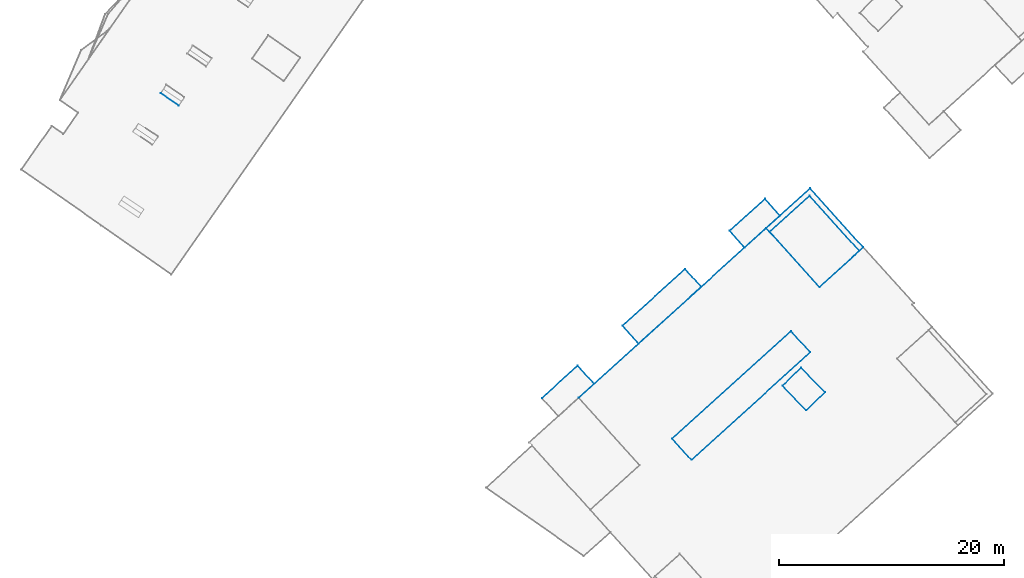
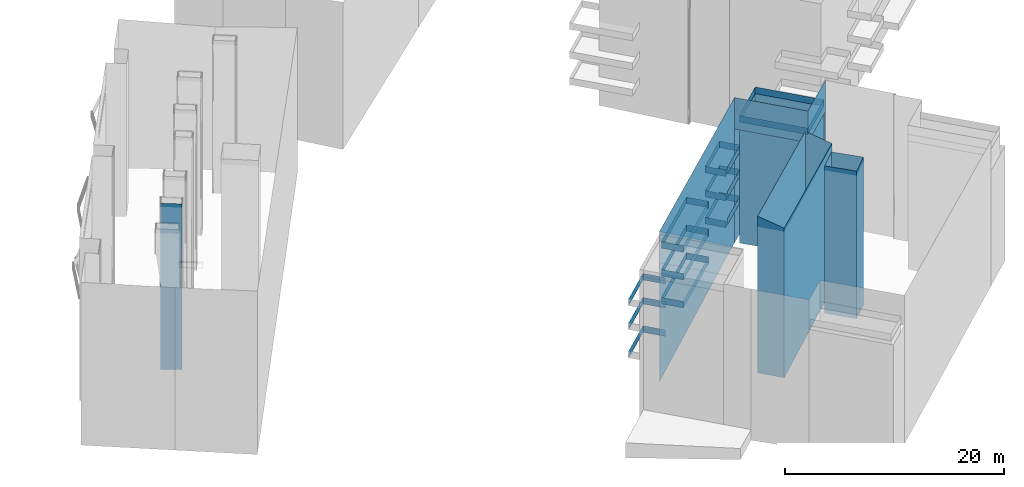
# Not in any storey, part 7 of 136: 86 walls.
"""IFC4 building model written with IfcOpenShell, lengths in metres."""

from ifc_helpers import new_model, entity, si_unit, converted_unit, origin, place, context, subcontext, project, spatial, face_set, surface_model, element, save


model = new_model("IFC4")

# Units and contexts
model_context = context("Model", 3, precision=1e-05, world=origin())
body_context = subcontext(model_context, "Body", "Model", "MODEL_VIEW")
ifc_project = project(units=[converted_unit("PLANEANGLEUNIT", "DEGREE", entity("IfcRatioMeasure", 0.0174532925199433), si_unit("PLANEANGLEUNIT", "RADIAN"), dimensions=[0, 0, 0, 0, 0, 0, 0]), si_unit("AREAUNIT", "SQUARE_METRE"), si_unit("LENGTHUNIT", "METRE")], contexts=[model_context])

# Site, building
site_placement = place(None, origin())
site = spatial("IfcSite", under=ifc_project, at=site_placement, Name="_site")
building_1_placement = place(site_placement, origin())
building_1 = spatial("IfcBuilding", under=site, at=building_1_placement, Name="_building")

# Wall
wall_1_placement = place(building_1_placement, origin())
element("IfcWall", 1, at=wall_1_placement, inside=building_1, Name="Wall", PredefinedType="NOTDEFINED", context=body_context, shape_type="SurfaceModel", body=[
    surface_model("IfcFaceBasedSurfaceModel", [(10.42, 26.021, 54.34), (8.8, 27.11, 54.34), (8.8, 27.11, 35.735), (10.42, 26.021, 35.867)], [face_set([[[0, 1, 2, 3]]])]),
])

# Building
building_2_placement = place(site_placement, origin())
building_2 = spatial("IfcBuilding", under=site, at=building_2_placement, Name="_building")

# Walls
wall_2_placement = place(building_2_placement, origin())
element("IfcWall", 2, at=wall_2_placement, inside=building_2, Name="Wall", PredefinedType="NOTDEFINED", context=body_context, shape_type="SurfaceModel", body=[
    surface_model("IfcFaceBasedSurfaceModel", [(55.9, -5.41, 54.77), (54.19, -3.52, 55.57), (54.19, -3.52, 38.058), (55.9, -5.41, 38.055)], [face_set([[[0, 1, 2, 3]]])]),
])
wall_3_placement = place(building_2_placement, origin())
element("IfcWall", 3, at=wall_3_placement, inside=building_2, Name="Wall", PredefinedType="NOTDEFINED", context=body_context, shape_type="SurfaceModel", body=[
    surface_model("IfcFaceBasedSurfaceModel", [(63.97, 1.16, 54.92), (65.62, 2.771, 54.92), (65.62, 2.771, 38.478), (63.97, 1.16, 38.459)], [face_set([[[0, 1, 2, 3]]])]),
])
wall_4_placement = place(building_2_placement, origin())
element("IfcWall", 4, at=wall_4_placement, inside=building_2, Name="Wall", PredefinedType="NOTDEFINED", context=body_context, shape_type="SurfaceModel", body=[
    surface_model("IfcFaceBasedSurfaceModel", [(45.81, 2.95, 44.76), (47.27, 1.34, 44.76), (47.27, 1.34, 45.51), (45.81, 2.95, 45.51)], [face_set([[[0, 1, 2, 3]]])]),
])
wall_5_placement = place(building_2_placement, origin())
element("IfcWall", 5, at=wall_5_placement, inside=building_2, Name="Wall", PredefinedType="NOTDEFINED", context=body_context, shape_type="SurfaceModel", body=[
    surface_model("IfcFaceBasedSurfaceModel", [(42.64, 0.08, 44.76), (45.81, 2.95, 44.76), (45.81, 2.95, 45.51), (42.64, 0.08, 45.51)], [face_set([[[0, 1, 2, 3]]])]),
])
wall_6_placement = place(building_2_placement, origin())
element("IfcWall", 6, at=wall_6_placement, inside=building_2, Name="Wall", PredefinedType="NOTDEFINED", context=body_context, shape_type="SurfaceModel", body=[
    surface_model("IfcFaceBasedSurfaceModel", [(45.81, 2.95, 44.76), (47.27, 1.34, 44.76), (47.27, 1.34, 45.51), (45.81, 2.95, 45.51)], [face_set([[[0, 1, 2, 3]]])]),
])
wall_7_placement = place(building_2_placement, origin())
element("IfcWall", 7, at=wall_7_placement, inside=building_2, Name="Wall", PredefinedType="NOTDEFINED", context=body_context, shape_type="SurfaceModel", body=[
    surface_model("IfcFaceBasedSurfaceModel", [(42.64, 0.08, 44.76), (45.81, 2.95, 44.76), (45.81, 2.95, 45.51), (42.64, 0.08, 45.51)], [face_set([[[0, 1, 2, 3]]])]),
])
wall_8_placement = place(building_2_placement, origin())
element("IfcWall", 8, at=wall_8_placement, inside=building_2, Name="Wall", PredefinedType="NOTDEFINED", context=body_context, shape_type="SurfaceModel", body=[
    surface_model("IfcFaceBasedSurfaceModel", [(66.37, 18.021, 51.92), (70.79, 13.13, 51.92), (70.79, 13.13, 38.485), (66.37, 18.021, 38.212)], [face_set([[[0, 1, 2, 3]]])]),
])
wall_9_placement = place(building_2_placement, origin())
element("IfcWall", 9, at=wall_9_placement, inside=building_2, Name="Wall", PredefinedType="NOTDEFINED", context=body_context, shape_type="SurfaceModel", body=[
    surface_model("IfcFaceBasedSurfaceModel", [(62.84, 14.82, 51.92), (66.37, 18.021, 51.92), (66.37, 18.021, 38.212), (62.84, 14.82, 38.41)], [face_set([[[0, 1, 2, 3]]])]),
])
wall_10_placement = place(building_2_placement, origin())
element("IfcWall", 10, at=wall_10_placement, inside=building_2, Name="Wall", PredefinedType="NOTDEFINED", context=body_context, shape_type="SurfaceModel", body=[
    surface_model("IfcFaceBasedSurfaceModel", [(66.09, -1.02, 54.92), (63.97, 1.16, 54.92), (63.97, 1.16, 38.459), (66.09, -1.02, 38.412)], [face_set([[[0, 1, 2, 3]]])]),
])
wall_11_placement = place(building_2_placement, origin())
element("IfcWall", 11, at=wall_11_placement, inside=building_2, Name="Wall", PredefinedType="NOTDEFINED", context=body_context, shape_type="SurfaceModel", body=[
    surface_model("IfcFaceBasedSurfaceModel", [(67.74, 0.601, 54.92), (66.09, -1.02, 54.92), (66.09, -1.02, 38.412), (67.74, 0.601, 38.407)], [face_set([[[0, 1, 2, 3]]])]),
])
wall_12_placement = place(building_2_placement, origin())
element("IfcWall", 12, at=wall_12_placement, inside=building_2, Name="Wall", PredefinedType="NOTDEFINED", context=body_context, shape_type="SurfaceModel", body=[
    surface_model("IfcFaceBasedSurfaceModel", [(65.62, 2.771, 54.92), (67.74, 0.601, 54.92), (67.74, 0.601, 38.407), (65.62, 2.771, 38.478)], [face_set([[[0, 1, 2, 3]]])]),
])
wall_13_placement = place(building_2_placement, origin())
element("IfcWall", 13, at=wall_13_placement, inside=building_2, Name="Wall", PredefinedType="NOTDEFINED", context=body_context, shape_type="SurfaceModel", body=[
    surface_model("IfcFaceBasedSurfaceModel", [(66.44, 4.13, 54.77), (55.9, -5.41, 54.77), (55.9, -5.41, 38.055), (66.44, 4.13, 38.476)], [face_set([[[0, 1, 2, 3]]])]),
])
wall_14_placement = place(building_2_placement, origin())
element("IfcWall", 14, at=wall_14_placement, inside=building_2, Name="Wall", PredefinedType="NOTDEFINED", context=body_context, shape_type="SurfaceModel", body=[
    surface_model("IfcFaceBasedSurfaceModel", [(64.73, 6.021, 55.57), (66.44, 4.13, 54.77), (66.44, 4.13, 38.476), (64.73, 6.021, 38.535)], [face_set([[[0, 1, 2, 3]]])]),
])
wall_15_placement = place(building_2_placement, origin())
element("IfcWall", 15, at=wall_15_placement, inside=building_2, Name="Wall", PredefinedType="NOTDEFINED", context=body_context, shape_type="SurfaceModel", body=[
    surface_model("IfcFaceBasedSurfaceModel", [(54.19, -3.52, 55.57), (64.73, 6.021, 55.57), (64.73, 6.021, 38.535), (54.19, -3.52, 38.058)], [face_set([[[0, 1, 2, 3]]])]),
])
wall_16_placement = place(building_2_placement, origin())
element("IfcWall", 16, at=wall_16_placement, inside=building_2, Name="Wall", PredefinedType="NOTDEFINED", context=body_context, shape_type="SurfaceModel", body=[
    surface_model("IfcFaceBasedSurfaceModel", [(63.75, 16.26, 47.44), (60.62, 13.43, 47.44), (60.62, 13.43, 48.19), (63.75, 16.26, 48.19)], [face_set([[[0, 1, 2, 3]]])]),
])
wall_17_placement = place(building_2_placement, origin())
element("IfcWall", 17, at=wall_17_placement, inside=building_2, Name="Wall", PredefinedType="NOTDEFINED", context=body_context, shape_type="SurfaceModel", body=[
    surface_model("IfcFaceBasedSurfaceModel", [(62.41, 17.74, 47.44), (63.75, 16.26, 47.44), (63.75, 16.26, 48.19), (62.41, 17.74, 48.19)], [face_set([[[0, 1, 2, 3]]])]),
])
wall_18_placement = place(building_2_placement, origin())
element("IfcWall", 18, at=wall_18_placement, inside=building_2, Name="Wall", PredefinedType="NOTDEFINED", context=body_context, shape_type="SurfaceModel", body=[
    surface_model("IfcFaceBasedSurfaceModel", [(59.29, 14.91, 47.44), (62.41, 17.74, 47.44), (62.41, 17.74, 48.19), (59.29, 14.91, 48.19)], [face_set([[[0, 1, 2, 3]]])]),
])
wall_19_placement = place(building_2_placement, origin())
element("IfcWall", 19, at=wall_19_placement, inside=building_2, Name="Wall", PredefinedType="NOTDEFINED", context=body_context, shape_type="SurfaceModel", body=[
    surface_model("IfcFaceBasedSurfaceModel", [(60.62, 13.43, 47.44), (59.29, 14.91, 47.44), (59.29, 14.91, 48.19), (60.62, 13.43, 48.19)], [face_set([[[0, 1, 2, 3]]])]),
])
wall_20_placement = place(building_2_placement, origin())
element("IfcWall", 20, at=wall_20_placement, inside=building_2, Name="Wall", PredefinedType="NOTDEFINED", context=body_context, shape_type="SurfaceModel", body=[
    surface_model("IfcFaceBasedSurfaceModel", [(63.75, 16.26, 47.44), (60.62, 13.43, 47.44), (60.62, 13.43, 48.19), (63.75, 16.26, 48.19)], [face_set([[[0, 1, 2, 3]]])]),
])
wall_21_placement = place(building_2_placement, origin())
element("IfcWall", 21, at=wall_21_placement, inside=building_2, Name="Wall", PredefinedType="NOTDEFINED", context=body_context, shape_type="SurfaceModel", body=[
    surface_model("IfcFaceBasedSurfaceModel", [(62.41, 17.74, 47.44), (63.75, 16.26, 47.44), (63.75, 16.26, 48.19), (62.41, 17.74, 48.19)], [face_set([[[0, 1, 2, 3]]])]),
])
wall_22_placement = place(building_2_placement, origin())
element("IfcWall", 22, at=wall_22_placement, inside=building_2, Name="Wall", PredefinedType="NOTDEFINED", context=body_context, shape_type="SurfaceModel", body=[
    surface_model("IfcFaceBasedSurfaceModel", [(59.29, 14.91, 47.44), (62.41, 17.74, 47.44), (62.41, 17.74, 48.19), (59.29, 14.91, 48.19)], [face_set([[[0, 1, 2, 3]]])]),
])
wall_23_placement = place(building_2_placement, origin())
element("IfcWall", 23, at=wall_23_placement, inside=building_2, Name="Wall", PredefinedType="NOTDEFINED", context=body_context, shape_type="SurfaceModel", body=[
    surface_model("IfcFaceBasedSurfaceModel", [(60.62, 13.43, 47.44), (59.29, 14.91, 47.44), (59.29, 14.91, 48.19), (60.62, 13.43, 48.19)], [face_set([[[0, 1, 2, 3]]])]),
])
wall_24_placement = place(building_2_placement, origin())
element("IfcWall", 24, at=wall_24_placement, inside=building_2, Name="Wall", PredefinedType="NOTDEFINED", context=body_context, shape_type="SurfaceModel", body=[
    surface_model("IfcFaceBasedSurfaceModel", [(45.81, 2.95, 47.44), (47.27, 1.34, 47.44), (47.27, 1.34, 48.19), (45.81, 2.95, 48.19)], [face_set([[[0, 1, 2, 3]]])]),
])
wall_25_placement = place(building_2_placement, origin())
element("IfcWall", 25, at=wall_25_placement, inside=building_2, Name="Wall", PredefinedType="NOTDEFINED", context=body_context, shape_type="SurfaceModel", body=[
    surface_model("IfcFaceBasedSurfaceModel", [(42.64, 0.08, 47.44), (45.81, 2.95, 47.44), (45.81, 2.95, 48.19), (42.64, 0.08, 48.19)], [face_set([[[0, 1, 2, 3]]])]),
])
wall_26_placement = place(building_2_placement, origin())
element("IfcWall", 26, at=wall_26_placement, inside=building_2, Name="Wall", PredefinedType="NOTDEFINED", context=body_context, shape_type="SurfaceModel", body=[
    surface_model("IfcFaceBasedSurfaceModel", [(45.81, 2.95, 47.44), (47.27, 1.34, 47.44), (47.27, 1.34, 48.19), (45.81, 2.95, 48.19)], [face_set([[[0, 1, 2, 3]]])]),
])
wall_27_placement = place(building_2_placement, origin())
element("IfcWall", 27, at=wall_27_placement, inside=building_2, Name="Wall", PredefinedType="NOTDEFINED", context=body_context, shape_type="SurfaceModel", body=[
    surface_model("IfcFaceBasedSurfaceModel", [(42.64, 0.08, 47.44), (45.81, 2.95, 47.44), (45.81, 2.95, 48.19), (42.64, 0.08, 48.19)], [face_set([[[0, 1, 2, 3]]])]),
])
wall_28_placement = place(building_2_placement, origin())
element("IfcWall", 28, at=wall_28_placement, inside=building_2, Name="Wall", PredefinedType="NOTDEFINED", context=body_context, shape_type="SurfaceModel", body=[
    surface_model("IfcFaceBasedSurfaceModel", [(67.26, 9.93, 54.57), (71.14, 13.44, 54.52), (71.14, 13.44, 51.06), (67.26, 9.93, 51.06)], [face_set([[[0, 1, 2, 3]]])]),
])
wall_29_placement = place(building_2_placement, origin())
element("IfcWall", 29, at=wall_29_placement, inside=building_2, Name="Wall", PredefinedType="NOTDEFINED", context=body_context, shape_type="SurfaceModel", body=[
    surface_model("IfcFaceBasedSurfaceModel", [(62.53, 15.16, 54.57), (67.26, 9.93, 54.57), (67.26, 9.93, 51.06), (62.53, 15.16, 51.06)], [face_set([[[0, 1, 2, 3]]])]),
])
wall_30_placement = place(building_2_placement, origin())
element("IfcWall", 30, at=wall_30_placement, inside=building_2, Name="Wall", PredefinedType="NOTDEFINED", context=body_context, shape_type="SurfaceModel", body=[
    surface_model("IfcFaceBasedSurfaceModel", [(45.9, 0.09, 54.57), (62.53, 15.16, 54.57), (62.53, 15.16, 38.35), (45.9, 0.09, 37.775)], [face_set([[[0, 1, 2, 3]]])]),
])
wall_31_placement = place(building_2_placement, origin())
element("IfcWall", 31, at=wall_31_placement, inside=building_2, Name="Wall", PredefinedType="NOTDEFINED", context=body_context, shape_type="SurfaceModel", body=[
    surface_model("IfcFaceBasedSurfaceModel", [(66.41, 18.67, 51.06), (71.14, 13.44, 51.06), (71.14, 13.44, 38.472), (66.41, 18.67, 38.179)], [face_set([[[0, 1, 2, 3]]])]),
])
wall_32_placement = place(building_2_placement, origin())
element("IfcWall", 32, at=wall_32_placement, inside=building_2, Name="Wall", PredefinedType="NOTDEFINED", context=body_context, shape_type="SurfaceModel", body=[
    surface_model("IfcFaceBasedSurfaceModel", [(62.53, 15.16, 51.06), (66.41, 18.67, 51.06), (66.41, 18.67, 38.179), (62.53, 15.16, 38.35)], [face_set([[[0, 1, 2, 3]]])]),
])
wall_33_placement = place(building_2_placement, origin())
element("IfcWall", 33, at=wall_33_placement, inside=building_2, Name="Wall", PredefinedType="NOTDEFINED", context=body_context, shape_type="SurfaceModel", body=[
    surface_model("IfcFaceBasedSurfaceModel", [(56.77, 9.94, 41.23), (51.22, 4.92, 41.23), (51.22, 4.92, 41.98), (56.77, 9.94, 41.98)], [face_set([[[0, 1, 2, 3]]])]),
])
wall_34_placement = place(building_2_placement, origin())
element("IfcWall", 34, at=wall_34_placement, inside=building_2, Name="Wall", PredefinedType="NOTDEFINED", context=body_context, shape_type="SurfaceModel", body=[
    surface_model("IfcFaceBasedSurfaceModel", [(55.34, 11.521, 41.23), (56.77, 9.94, 41.23), (56.77, 9.94, 41.98), (55.34, 11.521, 41.98)], [face_set([[[0, 1, 2, 3]]])]),
])
wall_35_placement = place(building_2_placement, origin())
element("IfcWall", 35, at=wall_35_placement, inside=building_2, Name="Wall", PredefinedType="NOTDEFINED", context=body_context, shape_type="SurfaceModel", body=[
    surface_model("IfcFaceBasedSurfaceModel", [(49.79, 6.5, 41.23), (55.34, 11.521, 41.23), (55.34, 11.521, 41.98), (49.79, 6.5, 41.98)], [face_set([[[0, 1, 2, 3]]])]),
])
wall_36_placement = place(building_2_placement, origin())
element("IfcWall", 36, at=wall_36_placement, inside=building_2, Name="Wall", PredefinedType="NOTDEFINED", context=body_context, shape_type="SurfaceModel", body=[
    surface_model("IfcFaceBasedSurfaceModel", [(51.22, 4.92, 41.23), (49.79, 6.5, 41.23), (49.79, 6.5, 41.98), (51.22, 4.92, 41.98)], [face_set([[[0, 1, 2, 3]]])]),
])
wall_37_placement = place(building_2_placement, origin())
element("IfcWall", 37, at=wall_37_placement, inside=building_2, Name="Wall", PredefinedType="NOTDEFINED", context=body_context, shape_type="SurfaceModel", body=[
    surface_model("IfcFaceBasedSurfaceModel", [(56.77, 9.94, 41.23), (51.22, 4.92, 41.23), (51.22, 4.92, 41.98), (56.77, 9.94, 41.98)], [face_set([[[0, 1, 2, 3]]])]),
])
wall_38_placement = place(building_2_placement, origin())
element("IfcWall", 38, at=wall_38_placement, inside=building_2, Name="Wall", PredefinedType="NOTDEFINED", context=body_context, shape_type="SurfaceModel", body=[
    surface_model("IfcFaceBasedSurfaceModel", [(55.34, 11.521, 41.23), (56.77, 9.94, 41.23), (56.77, 9.94, 41.98), (55.34, 11.521, 41.98)], [face_set([[[0, 1, 2, 3]]])]),
])
wall_39_placement = place(building_2_placement, origin())
element("IfcWall", 39, at=wall_39_placement, inside=building_2, Name="Wall", PredefinedType="NOTDEFINED", context=body_context, shape_type="SurfaceModel", body=[
    surface_model("IfcFaceBasedSurfaceModel", [(49.79, 6.5, 41.23), (55.34, 11.521, 41.23), (55.34, 11.521, 41.98), (49.79, 6.5, 41.98)], [face_set([[[0, 1, 2, 3]]])]),
])
wall_40_placement = place(building_2_placement, origin())
element("IfcWall", 40, at=wall_40_placement, inside=building_2, Name="Wall", PredefinedType="NOTDEFINED", context=body_context, shape_type="SurfaceModel", body=[
    surface_model("IfcFaceBasedSurfaceModel", [(51.22, 4.92, 41.23), (49.79, 6.5, 41.23), (49.79, 6.5, 41.98), (51.22, 4.92, 41.98)], [face_set([[[0, 1, 2, 3]]])]),
])
wall_41_placement = place(building_2_placement, origin())
element("IfcWall", 41, at=wall_41_placement, inside=building_2, Name="Wall", PredefinedType="NOTDEFINED", context=body_context, shape_type="SurfaceModel", body=[
    surface_model("IfcFaceBasedSurfaceModel", [(63.75, 16.26, 41.74), (60.62, 13.43, 41.74), (60.62, 13.43, 42.49), (63.75, 16.26, 42.49)], [face_set([[[0, 1, 2, 3]]])]),
])
wall_42_placement = place(building_2_placement, origin())
element("IfcWall", 42, at=wall_42_placement, inside=building_2, Name="Wall", PredefinedType="NOTDEFINED", context=body_context, shape_type="SurfaceModel", body=[
    surface_model("IfcFaceBasedSurfaceModel", [(62.41, 17.74, 41.74), (63.75, 16.26, 41.74), (63.75, 16.26, 42.49), (62.41, 17.74, 42.49)], [face_set([[[0, 1, 2, 3]]])]),
])
wall_43_placement = place(building_2_placement, origin())
element("IfcWall", 43, at=wall_43_placement, inside=building_2, Name="Wall", PredefinedType="NOTDEFINED", context=body_context, shape_type="SurfaceModel", body=[
    surface_model("IfcFaceBasedSurfaceModel", [(59.29, 14.91, 41.74), (62.41, 17.74, 41.74), (62.41, 17.74, 42.49), (59.29, 14.91, 42.49)], [face_set([[[0, 1, 2, 3]]])]),
])
wall_44_placement = place(building_2_placement, origin())
element("IfcWall", 44, at=wall_44_placement, inside=building_2, Name="Wall", PredefinedType="NOTDEFINED", context=body_context, shape_type="SurfaceModel", body=[
    surface_model("IfcFaceBasedSurfaceModel", [(60.62, 13.43, 41.74), (59.29, 14.91, 41.74), (59.29, 14.91, 42.49), (60.62, 13.43, 42.49)], [face_set([[[0, 1, 2, 3]]])]),
])
wall_45_placement = place(building_2_placement, origin())
element("IfcWall", 45, at=wall_45_placement, inside=building_2, Name="Wall", PredefinedType="NOTDEFINED", context=body_context, shape_type="SurfaceModel", body=[
    surface_model("IfcFaceBasedSurfaceModel", [(63.75, 16.26, 41.74), (60.62, 13.43, 41.74), (60.62, 13.43, 42.49), (63.75, 16.26, 42.49)], [face_set([[[0, 1, 2, 3]]])]),
])
wall_46_placement = place(building_2_placement, origin())
element("IfcWall", 46, at=wall_46_placement, inside=building_2, Name="Wall", PredefinedType="NOTDEFINED", context=body_context, shape_type="SurfaceModel", body=[
    surface_model("IfcFaceBasedSurfaceModel", [(62.41, 17.74, 41.74), (63.75, 16.26, 41.74), (63.75, 16.26, 42.49), (62.41, 17.74, 42.49)], [face_set([[[0, 1, 2, 3]]])]),
])
wall_47_placement = place(building_2_placement, origin())
element("IfcWall", 47, at=wall_47_placement, inside=building_2, Name="Wall", PredefinedType="NOTDEFINED", context=body_context, shape_type="SurfaceModel", body=[
    surface_model("IfcFaceBasedSurfaceModel", [(59.29, 14.91, 41.74), (62.41, 17.74, 41.74), (62.41, 17.74, 42.49), (59.29, 14.91, 42.49)], [face_set([[[0, 1, 2, 3]]])]),
])
wall_48_placement = place(building_2_placement, origin())
element("IfcWall", 48, at=wall_48_placement, inside=building_2, Name="Wall", PredefinedType="NOTDEFINED", context=body_context, shape_type="SurfaceModel", body=[
    surface_model("IfcFaceBasedSurfaceModel", [(60.62, 13.43, 41.74), (59.29, 14.91, 41.74), (59.29, 14.91, 42.49), (60.62, 13.43, 42.49)], [face_set([[[0, 1, 2, 3]]])]),
])
wall_49_placement = place(building_2_placement, origin())
element("IfcWall", 49, at=wall_49_placement, inside=building_2, Name="Wall", PredefinedType="NOTDEFINED", context=body_context, shape_type="SurfaceModel", body=[
    surface_model("IfcFaceBasedSurfaceModel", [(63.75, 16.26, 44.73), (60.62, 13.43, 44.73), (60.62, 13.43, 45.48), (63.75, 16.26, 45.48)], [face_set([[[0, 1, 2, 3]]])]),
])
wall_50_placement = place(building_2_placement, origin())
element("IfcWall", 50, at=wall_50_placement, inside=building_2, Name="Wall", PredefinedType="NOTDEFINED", context=body_context, shape_type="SurfaceModel", body=[
    surface_model("IfcFaceBasedSurfaceModel", [(62.41, 17.74, 44.73), (63.75, 16.26, 44.73), (63.75, 16.26, 45.48), (62.41, 17.74, 45.48)], [face_set([[[0, 1, 2, 3]]])]),
])
wall_51_placement = place(building_2_placement, origin())
element("IfcWall", 51, at=wall_51_placement, inside=building_2, Name="Wall", PredefinedType="NOTDEFINED", context=body_context, shape_type="SurfaceModel", body=[
    surface_model("IfcFaceBasedSurfaceModel", [(59.29, 14.91, 44.73), (62.41, 17.74, 44.73), (62.41, 17.74, 45.48), (59.29, 14.91, 45.48)], [face_set([[[0, 1, 2, 3]]])]),
])
wall_52_placement = place(building_2_placement, origin())
element("IfcWall", 52, at=wall_52_placement, inside=building_2, Name="Wall", PredefinedType="NOTDEFINED", context=body_context, shape_type="SurfaceModel", body=[
    surface_model("IfcFaceBasedSurfaceModel", [(60.62, 13.43, 44.73), (59.29, 14.91, 44.73), (59.29, 14.91, 45.48), (60.62, 13.43, 45.48)], [face_set([[[0, 1, 2, 3]]])]),
])
wall_53_placement = place(building_2_placement, origin())
element("IfcWall", 53, at=wall_53_placement, inside=building_2, Name="Wall", PredefinedType="NOTDEFINED", context=body_context, shape_type="SurfaceModel", body=[
    surface_model("IfcFaceBasedSurfaceModel", [(63.75, 16.26, 44.73), (60.62, 13.43, 44.73), (60.62, 13.43, 45.48), (63.75, 16.26, 45.48)], [face_set([[[0, 1, 2, 3]]])]),
])
wall_54_placement = place(building_2_placement, origin())
element("IfcWall", 54, at=wall_54_placement, inside=building_2, Name="Wall", PredefinedType="NOTDEFINED", context=body_context, shape_type="SurfaceModel", body=[
    surface_model("IfcFaceBasedSurfaceModel", [(62.41, 17.74, 44.73), (63.75, 16.26, 44.73), (63.75, 16.26, 45.48), (62.41, 17.74, 45.48)], [face_set([[[0, 1, 2, 3]]])]),
])
wall_55_placement = place(building_2_placement, origin())
element("IfcWall", 55, at=wall_55_placement, inside=building_2, Name="Wall", PredefinedType="NOTDEFINED", context=body_context, shape_type="SurfaceModel", body=[
    surface_model("IfcFaceBasedSurfaceModel", [(59.29, 14.91, 44.73), (62.41, 17.74, 44.73), (62.41, 17.74, 45.48), (59.29, 14.91, 45.48)], [face_set([[[0, 1, 2, 3]]])]),
])
wall_56_placement = place(building_2_placement, origin())
element("IfcWall", 56, at=wall_56_placement, inside=building_2, Name="Wall", PredefinedType="NOTDEFINED", context=body_context, shape_type="SurfaceModel", body=[
    surface_model("IfcFaceBasedSurfaceModel", [(60.62, 13.43, 44.73), (59.29, 14.91, 44.73), (59.29, 14.91, 45.48), (60.62, 13.43, 45.48)], [face_set([[[0, 1, 2, 3]]])]),
])
wall_57_placement = place(building_2_placement, origin())
element("IfcWall", 57, at=wall_57_placement, inside=building_2, Name="Wall", PredefinedType="NOTDEFINED", context=body_context, shape_type="SurfaceModel", body=[
    surface_model("IfcFaceBasedSurfaceModel", [(67.26, 9.93, 51.92), (62.84, 14.82, 51.92), (62.84, 14.82, 52.67), (67.26, 9.93, 52.67)], [face_set([[[0, 1, 2, 3]]])]),
])
wall_58_placement = place(building_2_placement, origin())
element("IfcWall", 58, at=wall_58_placement, inside=building_2, Name="Wall", PredefinedType="NOTDEFINED", context=body_context, shape_type="SurfaceModel", body=[
    surface_model("IfcFaceBasedSurfaceModel", [(70.79, 13.13, 51.92), (67.26, 9.93, 51.92), (67.26, 9.93, 52.67), (70.79, 13.13, 52.67)], [face_set([[[0, 1, 2, 3]]])]),
])
wall_59_placement = place(building_2_placement, origin())
element("IfcWall", 59, at=wall_59_placement, inside=building_2, Name="Wall", PredefinedType="NOTDEFINED", context=body_context, shape_type="SurfaceModel", body=[
    surface_model("IfcFaceBasedSurfaceModel", [(66.37, 18.021, 51.92), (70.79, 13.13, 51.92), (70.79, 13.13, 52.67), (66.37, 18.021, 52.67)], [face_set([[[0, 1, 2, 3]]])]),
])
wall_60_placement = place(building_2_placement, origin())
element("IfcWall", 60, at=wall_60_placement, inside=building_2, Name="Wall", PredefinedType="NOTDEFINED", context=body_context, shape_type="SurfaceModel", body=[
    surface_model("IfcFaceBasedSurfaceModel", [(62.84, 14.82, 51.92), (66.37, 18.021, 51.92), (66.37, 18.021, 52.67), (62.84, 14.82, 52.67)], [face_set([[[0, 1, 2, 3]]])]),
])
wall_61_placement = place(building_2_placement, origin())
element("IfcWall", 61, at=wall_61_placement, inside=building_2, Name="Wall", PredefinedType="NOTDEFINED", context=body_context, shape_type="SurfaceModel", body=[
    surface_model("IfcFaceBasedSurfaceModel", [(67.26, 9.93, 51.92), (62.84, 14.82, 51.92), (62.84, 14.82, 52.67), (67.26, 9.93, 52.67)], [face_set([[[0, 1, 2, 3]]])]),
])
wall_62_placement = place(building_2_placement, origin())
element("IfcWall", 62, at=wall_62_placement, inside=building_2, Name="Wall", PredefinedType="NOTDEFINED", context=body_context, shape_type="SurfaceModel", body=[
    surface_model("IfcFaceBasedSurfaceModel", [(70.79, 13.13, 51.92), (67.26, 9.93, 51.92), (67.26, 9.93, 52.67), (70.79, 13.13, 52.67)], [face_set([[[0, 1, 2, 3]]])]),
])
wall_63_placement = place(building_2_placement, origin())
element("IfcWall", 63, at=wall_63_placement, inside=building_2, Name="Wall", PredefinedType="NOTDEFINED", context=body_context, shape_type="SurfaceModel", body=[
    surface_model("IfcFaceBasedSurfaceModel", [(66.37, 18.021, 51.92), (70.79, 13.13, 51.92), (70.79, 13.13, 52.67), (66.37, 18.021, 52.67)], [face_set([[[0, 1, 2, 3]]])]),
])
wall_64_placement = place(building_2_placement, origin())
element("IfcWall", 64, at=wall_64_placement, inside=building_2, Name="Wall", PredefinedType="NOTDEFINED", context=body_context, shape_type="SurfaceModel", body=[
    surface_model("IfcFaceBasedSurfaceModel", [(62.84, 14.82, 51.92), (66.37, 18.021, 51.92), (66.37, 18.021, 52.67), (62.84, 14.82, 52.67)], [face_set([[[0, 1, 2, 3]]])]),
])
wall_65_placement = place(building_2_placement, origin())
element("IfcWall", 65, at=wall_65_placement, inside=building_2, Name="Wall", PredefinedType="NOTDEFINED", context=body_context, shape_type="SurfaceModel", body=[
    surface_model("IfcFaceBasedSurfaceModel", [(45.81, 2.95, 41.6), (47.27, 1.34, 41.6), (47.27, 1.34, 42.35), (45.81, 2.95, 42.35)], [face_set([[[0, 1, 2, 3]]])]),
])
wall_66_placement = place(building_2_placement, origin())
element("IfcWall", 66, at=wall_66_placement, inside=building_2, Name="Wall", PredefinedType="NOTDEFINED", context=body_context, shape_type="SurfaceModel", body=[
    surface_model("IfcFaceBasedSurfaceModel", [(42.64, 0.08, 41.6), (45.81, 2.95, 41.6), (45.81, 2.95, 42.35), (42.64, 0.08, 42.35)], [face_set([[[0, 1, 2, 3]]])]),
])
wall_67_placement = place(building_2_placement, origin())
element("IfcWall", 67, at=wall_67_placement, inside=building_2, Name="Wall", PredefinedType="NOTDEFINED", context=body_context, shape_type="SurfaceModel", body=[
    surface_model("IfcFaceBasedSurfaceModel", [(45.81, 2.95, 41.6), (47.27, 1.34, 41.6), (47.27, 1.34, 42.35), (45.81, 2.95, 42.35)], [face_set([[[0, 1, 2, 3]]])]),
])
wall_68_placement = place(building_2_placement, origin())
element("IfcWall", 68, at=wall_68_placement, inside=building_2, Name="Wall", PredefinedType="NOTDEFINED", context=body_context, shape_type="SurfaceModel", body=[
    surface_model("IfcFaceBasedSurfaceModel", [(42.64, 0.08, 41.6), (45.81, 2.95, 41.6), (45.81, 2.95, 42.35), (42.64, 0.08, 42.35)], [face_set([[[0, 1, 2, 3]]])]),
])
wall_69_placement = place(building_2_placement, origin())
element("IfcWall", 69, at=wall_69_placement, inside=building_2, Name="Wall", PredefinedType="NOTDEFINED", context=body_context, shape_type="SurfaceModel", body=[
    surface_model("IfcFaceBasedSurfaceModel", [(67.26, 9.93, 51.92), (62.84, 14.82, 51.92), (62.84, 14.82, 38.41), (67.26, 9.93, 38.532)], [face_set([[[0, 1, 2, 3]]])]),
])
wall_70_placement = place(building_2_placement, origin())
element("IfcWall", 70, at=wall_70_placement, inside=building_2, Name="Wall", PredefinedType="NOTDEFINED", context=body_context, shape_type="SurfaceModel", body=[
    surface_model("IfcFaceBasedSurfaceModel", [(56.77, 9.94, 47.44), (51.22, 4.92, 47.44), (51.22, 4.92, 48.19), (56.77, 9.94, 48.19)], [face_set([[[0, 1, 2, 3]]])]),
])
wall_71_placement = place(building_2_placement, origin())
element("IfcWall", 71, at=wall_71_placement, inside=building_2, Name="Wall", PredefinedType="NOTDEFINED", context=body_context, shape_type="SurfaceModel", body=[
    surface_model("IfcFaceBasedSurfaceModel", [(70.79, 13.13, 51.92), (67.26, 9.93, 51.92), (67.26, 9.93, 38.532), (70.79, 13.13, 38.485)], [face_set([[[0, 1, 2, 3]]])]),
])
wall_72_placement = place(building_2_placement, origin())
element("IfcWall", 72, at=wall_72_placement, inside=building_2, Name="Wall", PredefinedType="NOTDEFINED", context=body_context, shape_type="SurfaceModel", body=[
    surface_model("IfcFaceBasedSurfaceModel", [(55.34, 11.521, 47.44), (56.77, 9.94, 47.44), (56.77, 9.94, 48.19), (55.34, 11.521, 48.19)], [face_set([[[0, 1, 2, 3]]])]),
])
wall_73_placement = place(building_2_placement, origin())
element("IfcWall", 73, at=wall_73_placement, inside=building_2, Name="Wall", PredefinedType="NOTDEFINED", context=body_context, shape_type="SurfaceModel", body=[
    surface_model("IfcFaceBasedSurfaceModel", [(49.79, 6.5, 47.44), (55.34, 11.521, 47.44), (55.34, 11.521, 48.19), (49.79, 6.5, 48.19)], [face_set([[[0, 1, 2, 3]]])]),
])
wall_74_placement = place(building_2_placement, origin())
element("IfcWall", 74, at=wall_74_placement, inside=building_2, Name="Wall", PredefinedType="NOTDEFINED", context=body_context, shape_type="SurfaceModel", body=[
    surface_model("IfcFaceBasedSurfaceModel", [(51.22, 4.92, 47.44), (49.79, 6.5, 47.44), (49.79, 6.5, 48.19), (51.22, 4.92, 48.19)], [face_set([[[0, 1, 2, 3]]])]),
])
wall_75_placement = place(building_2_placement, origin())
element("IfcWall", 75, at=wall_75_placement, inside=building_2, Name="Wall", PredefinedType="NOTDEFINED", context=body_context, shape_type="SurfaceModel", body=[
    surface_model("IfcFaceBasedSurfaceModel", [(56.77, 9.94, 47.44), (51.22, 4.92, 47.44), (51.22, 4.92, 48.19), (56.77, 9.94, 48.19)], [face_set([[[0, 1, 2, 3]]])]),
])
wall_76_placement = place(building_2_placement, origin())
element("IfcWall", 76, at=wall_76_placement, inside=building_2, Name="Wall", PredefinedType="NOTDEFINED", context=body_context, shape_type="SurfaceModel", body=[
    surface_model("IfcFaceBasedSurfaceModel", [(55.34, 11.521, 47.44), (56.77, 9.94, 47.44), (56.77, 9.94, 48.19), (55.34, 11.521, 48.19)], [face_set([[[0, 1, 2, 3]]])]),
])
wall_77_placement = place(building_2_placement, origin())
element("IfcWall", 77, at=wall_77_placement, inside=building_2, Name="Wall", PredefinedType="NOTDEFINED", context=body_context, shape_type="SurfaceModel", body=[
    surface_model("IfcFaceBasedSurfaceModel", [(49.79, 6.5, 47.44), (55.34, 11.521, 47.44), (55.34, 11.521, 48.19), (49.79, 6.5, 48.19)], [face_set([[[0, 1, 2, 3]]])]),
])
wall_78_placement = place(building_2_placement, origin())
element("IfcWall", 78, at=wall_78_placement, inside=building_2, Name="Wall", PredefinedType="NOTDEFINED", context=body_context, shape_type="SurfaceModel", body=[
    surface_model("IfcFaceBasedSurfaceModel", [(51.22, 4.92, 47.44), (49.79, 6.5, 47.44), (49.79, 6.5, 48.19), (51.22, 4.92, 48.19)], [face_set([[[0, 1, 2, 3]]])]),
])
wall_79_placement = place(building_2_placement, origin())
element("IfcWall", 79, at=wall_79_placement, inside=building_2, Name="Wall", PredefinedType="NOTDEFINED", context=body_context, shape_type="SurfaceModel", body=[
    surface_model("IfcFaceBasedSurfaceModel", [(56.77, 9.94, 44.35), (51.22, 4.92, 44.35), (51.22, 4.92, 45.1), (56.77, 9.94, 45.1)], [face_set([[[0, 1, 2, 3]]])]),
])
wall_80_placement = place(building_2_placement, origin())
element("IfcWall", 80, at=wall_80_placement, inside=building_2, Name="Wall", PredefinedType="NOTDEFINED", context=body_context, shape_type="SurfaceModel", body=[
    surface_model("IfcFaceBasedSurfaceModel", [(55.34, 11.521, 44.35), (56.77, 9.94, 44.35), (56.77, 9.94, 45.1), (55.34, 11.521, 45.1)], [face_set([[[0, 1, 2, 3]]])]),
])
wall_81_placement = place(building_2_placement, origin())
element("IfcWall", 81, at=wall_81_placement, inside=building_2, Name="Wall", PredefinedType="NOTDEFINED", context=body_context, shape_type="SurfaceModel", body=[
    surface_model("IfcFaceBasedSurfaceModel", [(49.79, 6.5, 44.35), (55.34, 11.521, 44.35), (55.34, 11.521, 45.1), (49.79, 6.5, 45.1)], [face_set([[[0, 1, 2, 3]]])]),
])
wall_82_placement = place(building_2_placement, origin())
element("IfcWall", 82, at=wall_82_placement, inside=building_2, Name="Wall", PredefinedType="NOTDEFINED", context=body_context, shape_type="SurfaceModel", body=[
    surface_model("IfcFaceBasedSurfaceModel", [(51.22, 4.92, 44.35), (49.79, 6.5, 44.35), (49.79, 6.5, 45.1), (51.22, 4.92, 45.1)], [face_set([[[0, 1, 2, 3]]])]),
])
wall_83_placement = place(building_2_placement, origin())
element("IfcWall", 83, at=wall_83_placement, inside=building_2, Name="Wall", PredefinedType="NOTDEFINED", context=body_context, shape_type="SurfaceModel", body=[
    surface_model("IfcFaceBasedSurfaceModel", [(56.77, 9.94, 44.35), (51.22, 4.92, 44.35), (51.22, 4.92, 45.1), (56.77, 9.94, 45.1)], [face_set([[[0, 1, 2, 3]]])]),
])
wall_84_placement = place(building_2_placement, origin())
element("IfcWall", 84, at=wall_84_placement, inside=building_2, Name="Wall", PredefinedType="NOTDEFINED", context=body_context, shape_type="SurfaceModel", body=[
    surface_model("IfcFaceBasedSurfaceModel", [(55.34, 11.521, 44.35), (56.77, 9.94, 44.35), (56.77, 9.94, 45.1), (55.34, 11.521, 45.1)], [face_set([[[0, 1, 2, 3]]])]),
])
wall_85_placement = place(building_2_placement, origin())
element("IfcWall", 85, at=wall_85_placement, inside=building_2, Name="Wall", PredefinedType="NOTDEFINED", context=body_context, shape_type="SurfaceModel", body=[
    surface_model("IfcFaceBasedSurfaceModel", [(49.79, 6.5, 44.35), (55.34, 11.521, 44.35), (55.34, 11.521, 45.1), (49.79, 6.5, 45.1)], [face_set([[[0, 1, 2, 3]]])]),
])
wall_86_placement = place(building_2_placement, origin())
element("IfcWall", 86, at=wall_86_placement, inside=building_2, Name="Wall", PredefinedType="NOTDEFINED", context=body_context, shape_type="SurfaceModel", body=[
    surface_model("IfcFaceBasedSurfaceModel", [(51.22, 4.92, 44.35), (49.79, 6.5, 44.35), (49.79, 6.5, 45.1), (51.22, 4.92, 45.1)], [face_set([[[0, 1, 2, 3]]])]),
])

save(model, "model.ifc")
